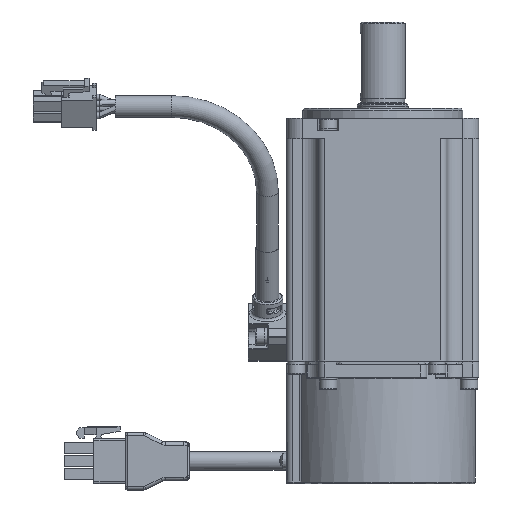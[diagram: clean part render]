
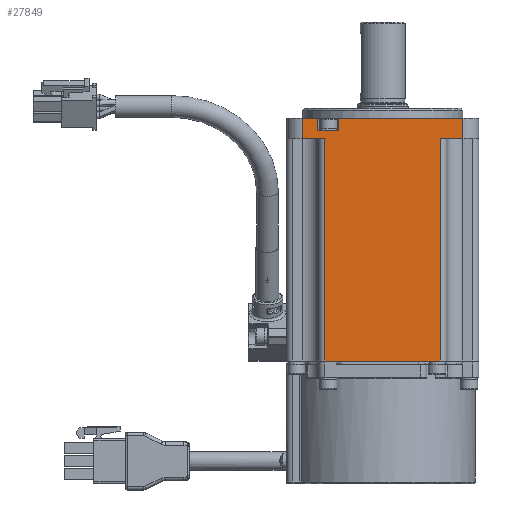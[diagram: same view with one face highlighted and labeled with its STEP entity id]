
A CAD part, left-side view. The second image highlights one B-rep face of the part: STEP entity #27849.
In plain terms, the highlighted planar face has unit normal (-1, 0, 0).
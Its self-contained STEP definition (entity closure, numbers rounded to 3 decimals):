
#1640=PLANE('',#29902);
#2762=FACE_OUTER_BOUND('',#4312,.T.);
#4312=EDGE_LOOP('',(#22205,#22206,#22207,#22208,#22209,#22210,#22211,#22212,
#22213,#22214,#22215,#22216));
#6495=LINE('',#46749,#8836);
#6498=LINE('',#46754,#8839);
#6524=LINE('',#46823,#8865);
#6526=LINE('',#46827,#8867);
#6528=LINE('',#46831,#8869);
#6529=LINE('',#46836,#8870);
#6540=LINE('',#46868,#8881);
#6554=LINE('',#46914,#8895);
#6556=LINE('',#46923,#8897);
#6587=LINE('',#47018,#8928);
#6632=LINE('',#47148,#8973);
#6633=LINE('',#47150,#8974);
#8836=VECTOR('',#35230,1000.);
#8839=VECTOR('',#35233,1000.);
#8865=VECTOR('',#35295,1000.);
#8867=VECTOR('',#35299,1000.);
#8869=VECTOR('',#35303,1000.);
#8870=VECTOR('',#35308,1000.);
#8881=VECTOR('',#35339,1000.);
#8895=VECTOR('',#35379,1000.);
#8897=VECTOR('',#35391,1000.);
#8928=VECTOR('',#35482,1000.);
#8973=VECTOR('',#35617,1000.);
#8974=VECTOR('',#35620,1000.);
#12234=VERTEX_POINT('',#46746);
#12235=VERTEX_POINT('',#46748);
#12236=VERTEX_POINT('',#46751);
#12237=VERTEX_POINT('',#46753);
#12261=VERTEX_POINT('',#46819);
#12263=VERTEX_POINT('',#46825);
#12264=VERTEX_POINT('',#46829);
#12266=VERTEX_POINT('',#46834);
#12277=VERTEX_POINT('',#46866);
#12296=VERTEX_POINT('',#46913);
#12330=VERTEX_POINT('',#47010);
#12332=VERTEX_POINT('',#47016);
#15629=EDGE_CURVE('',#12234,#12235,#6495,.T.);
#15632=EDGE_CURVE('',#12236,#12237,#6498,.T.);
#15667=EDGE_CURVE('',#12237,#12261,#6524,.T.);
#15669=EDGE_CURVE('',#12236,#12263,#6526,.T.);
#15671=EDGE_CURVE('',#12264,#12235,#6528,.T.);
#15673=EDGE_CURVE('',#12234,#12266,#6529,.T.);
#15689=EDGE_CURVE('',#12266,#12277,#6540,.T.);
#15712=EDGE_CURVE('',#12296,#12261,#6554,.T.);
#15717=EDGE_CURVE('',#12263,#12264,#6556,.T.);
#15762=EDGE_CURVE('',#12332,#12330,#6587,.T.);
#15829=EDGE_CURVE('',#12277,#12330,#6632,.T.);
#15830=EDGE_CURVE('',#12332,#12296,#6633,.T.);
#22205=ORIENTED_EDGE('',*,*,#15829,.T.);
#22206=ORIENTED_EDGE('',*,*,#15762,.F.);
#22207=ORIENTED_EDGE('',*,*,#15830,.T.);
#22208=ORIENTED_EDGE('',*,*,#15712,.T.);
#22209=ORIENTED_EDGE('',*,*,#15667,.F.);
#22210=ORIENTED_EDGE('',*,*,#15632,.F.);
#22211=ORIENTED_EDGE('',*,*,#15669,.T.);
#22212=ORIENTED_EDGE('',*,*,#15717,.T.);
#22213=ORIENTED_EDGE('',*,*,#15671,.T.);
#22214=ORIENTED_EDGE('',*,*,#15629,.F.);
#22215=ORIENTED_EDGE('',*,*,#15673,.T.);
#22216=ORIENTED_EDGE('',*,*,#15689,.T.);
#27849=ADVANCED_FACE('',(#2762),#1640,.T.);
#29902=AXIS2_PLACEMENT_3D('',#47149,#35618,#35619);
#35230=DIRECTION('',(0.,-1.,0.));
#35233=DIRECTION('',(0.,-1.,0.));
#35295=DIRECTION('',(0.,0.,-1.));
#35299=DIRECTION('',(0.,0.,-1.));
#35303=DIRECTION('',(0.,0.,1.));
#35308=DIRECTION('',(0.,0.,-1.));
#35339=DIRECTION('',(0.,-1.,0.));
#35379=DIRECTION('',(0.,-1.,0.));
#35391=DIRECTION('',(0.,1.,0.));
#35482=DIRECTION('',(0.,1.,0.));
#35617=DIRECTION('',(0.,0.,-1.));
#35618=DIRECTION('center_axis',(-1.,0.,0.));
#35619=DIRECTION('ref_axis',(0.,0.,
1.));
#35620=DIRECTION('',(0.,0.,1.));
#46746=CARTESIAN_POINT('',(0.,55.,10.));
#46748=CARTESIAN_POINT('',(0.,50.25,10.));
#46749=CARTESIAN_POINT('',(0.,30.,10.));
#46751=CARTESIAN_POINT('',(0.,43.75,10.));
#46753=CARTESIAN_POINT('',(0.,5.,10.));
#46754=CARTESIAN_POINT('',(0.,30.,10.));
#46819=CARTESIAN_POINT('',(0.,5.,3.5));
#46823=CARTESIAN_POINT('',(0.,5.,13.));
#46825=CARTESIAN_POINT('',(0.,43.75,6.));
#46827=CARTESIAN_POINT('',(0.,43.75,13.));
#46829=CARTESIAN_POINT('',(0.,50.25,6.));
#46831=CARTESIAN_POINT('',(0.,50.25,13.));
#46834=CARTESIAN_POINT('',(0.,55.,3.5));
#46836=CARTESIAN_POINT('',(0.,55.,13.));
#46866=CARTESIAN_POINT('',(0.,48.,3.5));
#46868=CARTESIAN_POINT('',(0.,55.,3.5));
#46913=CARTESIAN_POINT('',(0.,12.,3.5));
#46914=CARTESIAN_POINT('',(0.,55.,3.5));
#46923=CARTESIAN_POINT('',(0.,55.,6.));
#47010=CARTESIAN_POINT('',(0.,48.,-65.9));
#47016=CARTESIAN_POINT('',(0.,12.,-65.9));
#47018=CARTESIAN_POINT('',(0.,39.,-65.9));
#47148=CARTESIAN_POINT('',(0.,48.,13.));
#47149=CARTESIAN_POINT('Origin',(0.,12.,-49.7));
#47150=CARTESIAN_POINT('',(0.,12.,13.));
